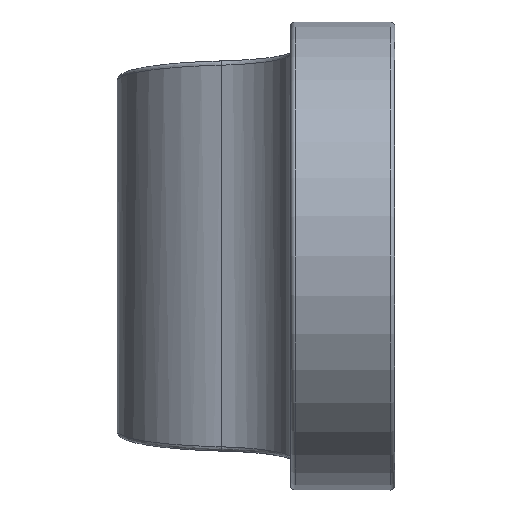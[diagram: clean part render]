
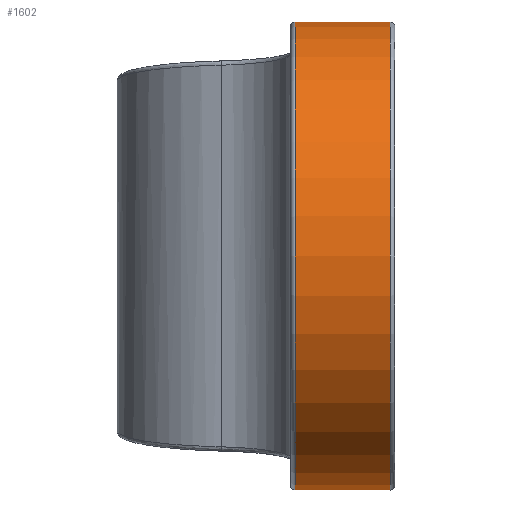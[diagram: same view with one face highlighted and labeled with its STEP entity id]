
A CAD part, front view. The second image highlights one B-rep face of the part: STEP entity #1602.
In plain terms, the highlighted cylindrical face has radius 27 mm (diameter 54 mm), a partial arc.
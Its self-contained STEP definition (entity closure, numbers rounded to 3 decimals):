
#424=CARTESIAN_POINT('',(4.5,0.,0.));
#425=DIRECTION('',(-1.,0.,0.));
#426=DIRECTION('',(0.,0.125,-0.992));
#427=AXIS2_PLACEMENT_3D('',#424,#425,#426);
#432=DIRECTION('',(1.,0.,0.));
#433=VECTOR('',#432,11.);
#434=CARTESIAN_POINT('',(4.5,3.385,26.787));
#435=LINE('',#434,#433);
#439=CARTESIAN_POINT('',(15.5,0.,0.));
#440=DIRECTION('',(1.,0.,0.));
#441=DIRECTION('',(0.,0.125,0.992));
#442=AXIS2_PLACEMENT_3D('',#439,#440,#441);
#1003=DIRECTION('',(1.,0.,0.));
#1004=VECTOR('',#1003,11.);
#1005=CARTESIAN_POINT('',(4.5,3.385,-26.787));
#1006=LINE('',#1005,#1004);
#1110=CARTESIAN_POINT('',(4.5,3.385,26.787));
#1111=VERTEX_POINT('',#1110);
#1114=CARTESIAN_POINT('',(4.5,3.385,-26.787));
#1115=VERTEX_POINT('',#1114);
#1140=CARTESIAN_POINT('',(15.5,3.385,-26.787));
#1141=VERTEX_POINT('',#1140);
#1144=CARTESIAN_POINT('',(15.5,3.385,26.787));
#1145=VERTEX_POINT('',#1144);
#1588=CARTESIAN_POINT('',(-16.,0.,0.));
#1589=DIRECTION('',(1.,0.,0.));
#1590=DIRECTION('',(0.,0.,-1.));
#1591=AXIS2_PLACEMENT_3D('',#1588,#1589,#1590);
#1592=CYLINDRICAL_SURFACE('',#1591,27.);
#1593=ORIENTED_EDGE('',*,*,#1582,.T.);
#1595=ORIENTED_EDGE('',*,*,#1594,.T.);
#1597=ORIENTED_EDGE('',*,*,#1596,.T.);
#1599=ORIENTED_EDGE('',*,*,#1598,.F.);
#1600=EDGE_LOOP('',(#1593,#1595,#1597,#1599));
#1601=FACE_OUTER_BOUND('',#1600,.F.);
#428=CIRCLE('',#427,27.);
#443=CIRCLE('',#442,27.);
#1582=EDGE_CURVE('',#1115,#1111,#428,.T.);
#1594=EDGE_CURVE('',#1111,#1145,#435,.T.);
#1596=EDGE_CURVE('',#1145,#1141,#443,.T.);
#1598=EDGE_CURVE('',#1115,#1141,#1006,.T.);
#1602=ADVANCED_FACE('',(#1601),#1592,.T.);
